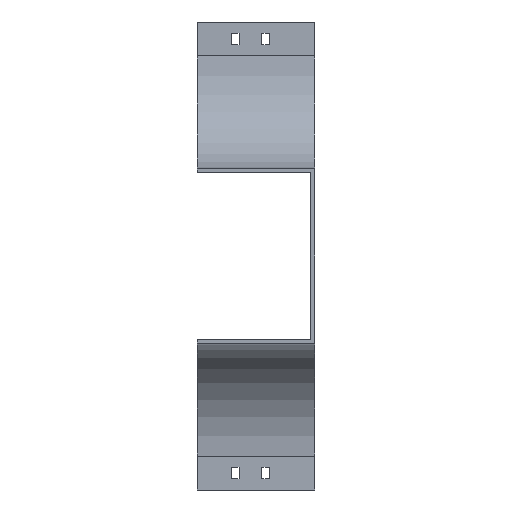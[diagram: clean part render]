
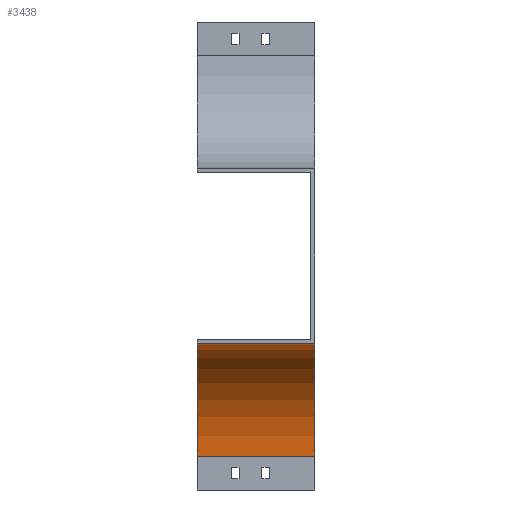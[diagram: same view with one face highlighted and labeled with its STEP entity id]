
A CAD part, left-side view. The second image highlights one B-rep face of the part: STEP entity #3438.
In plain terms, the highlighted cylindrical face has radius 100 mm (diameter 200 mm), a partial arc.
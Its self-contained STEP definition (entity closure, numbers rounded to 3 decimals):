
#89 = ORIENTED_EDGE ( 'NONE', *, *, #3194, .F. ) ;
#140 = DIRECTION ( 'NONE',  ( 0., 0., -1. ) ) ;
#157 = DIRECTION ( 'NONE',  ( 0., 0., -1. ) ) ;
#422 = CARTESIAN_POINT ( 'NONE',  ( -354., 0., -354. ) ) ;
#534 = CARTESIAN_POINT ( 'NONE',  ( -254., 0., -354. ) ) ;
#677 = CIRCLE ( 'NONE', #1642, 100. ) ;
#730 = EDGE_CURVE ( 'NONE', #3044, #3325, #3000, .T. ) ;
#757 = EDGE_CURVE ( 'NONE', #3642, #3621, #2456, .T. ) ;
#846 = CARTESIAN_POINT ( 'NONE',  ( -354., 0., -254. ) ) ;
#948 = CARTESIAN_POINT ( 'NONE',  ( -254., 104., -354. ) ) ;
#970 = DIRECTION ( 'NONE',  ( 0., -1., 0. ) ) ;
#1002 = CARTESIAN_POINT ( 'NONE',  ( -354., 104., -254. ) ) ;
#1108 = CARTESIAN_POINT ( 'NONE',  ( -254., 104., -354. ) ) ;
#1195 = ORIENTED_EDGE ( 'NONE', *, *, #757, .T. ) ;
#1301 = CARTESIAN_POINT ( 'NONE',  ( -354., 104., -354. ) ) ;
#1326 = CIRCLE ( 'NONE', #3721, 100. ) ;
#1554 = VECTOR ( 'NONE', #3358, 1000. ) ;
#1575 = DIRECTION ( 'NONE',  ( 0., -1., 0. ) ) ;
#1642 = AXIS2_PLACEMENT_3D ( 'NONE', #1301, #1575, #140 ) ;
#1711 = CARTESIAN_POINT ( 'NONE',  ( -354., 104., -354. ) ) ;
#1750 = DIRECTION ( 'NONE',  ( 0., -1., 0. ) ) ;
#1936 = VECTOR ( 'NONE', #970, 1000. ) ;
#2107 = CARTESIAN_POINT ( 'NONE',  ( -354., 104., -254. ) ) ;
#2456 = LINE ( 'NONE', #948, #1936 ) ;
#2666 = CYLINDRICAL_SURFACE ( 'NONE', #3278, 100. ) ;
#3000 = LINE ( 'NONE', #2107, #1554 ) ;
#3044 = VERTEX_POINT ( 'NONE', #1002 ) ;
#3194 = EDGE_CURVE ( 'NONE', #3642, #3044, #677, .T. ) ;
#3225 = FACE_OUTER_BOUND ( 'NONE', #3310, .T. ) ;
#3246 = EDGE_CURVE ( 'NONE', #3621, #3325, #1326, .T. ) ;
#3278 = AXIS2_PLACEMENT_3D ( 'NONE', #1711, #1750, #3287 ) ;
#3287 = DIRECTION ( 'NONE',  ( 0., 0., -1. ) ) ;
#3310 = EDGE_LOOP ( 'NONE', ( #3809, #3368, #89, #1195 ) ) ;
#3325 = VERTEX_POINT ( 'NONE', #846 ) ;
#3358 = DIRECTION ( 'NONE',  ( 0., -1., 0. ) ) ;
#3368 = ORIENTED_EDGE ( 'NONE', *, *, #730, .F. ) ;
#3438 = ADVANCED_FACE ( 'NONE', ( #3225 ), #2666, .F. ) ;
#3621 = VERTEX_POINT ( 'NONE', #534 ) ;
#3642 = VERTEX_POINT ( 'NONE', #1108 ) ;
#3705 = DIRECTION ( 'NONE',  ( 0., -1., 0. ) ) ;
#3721 = AXIS2_PLACEMENT_3D ( 'NONE', #422, #3705, #157 ) ;
#3809 = ORIENTED_EDGE ( 'NONE', *, *, #3246, .T. ) ;
